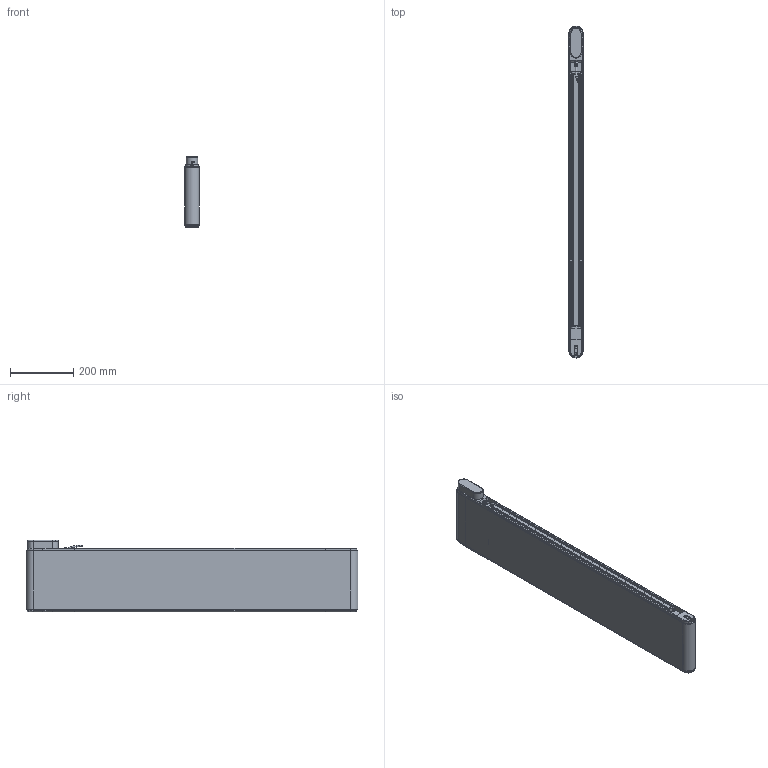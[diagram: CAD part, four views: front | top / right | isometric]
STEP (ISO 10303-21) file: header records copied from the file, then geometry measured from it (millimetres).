
FILE_DESCRIPTION(/* description */ (''),/* implementation_level */ '2;1');
FILE_NAME(/* name */ 'G:\DATEN\CAD\Förderband\Marketing\3D-Modelle (Standard)\FR-40-200-Q\FR-40-200-Q-1000-K.stp',/* time_stamp */ '2019-05-09T09:51:47+02:00',/* author */ ('melanie.ochs'),/* organization */ (''),/* preprocessor_version */ 'ST-DEVELOPER v17',/* originating_system */ 'Autodesk Inventor 2019',/* authorisation */ '');
FILE_SCHEMA (('CONFIG_CONTROL_DESIGN'));
Length unit declared in the file: centimetre
Products named in the file (1): FR-40-200-Q-1000-K
Bounding box: 46.6 x 1046.6 x 224.5 mm (x, y, z)
Volume: 3287150 mm3; surface area: 1865481.2 mm2
Topology: 34 solids, 35 shells, 904 faces, 2465 edges, 1681 vertices
Faces by surface type: plane 447, cylinder 288, cone 75, bspline 61, torus 33
Full cylindrical faces by diameter (mm): 1 x6, 3 x1, 4 x12, 4.3 x4, 4.65 x1, 4.917 x3, 5 x11, 5.5 x8, 6 x2, 6.5 x1, 6.773 x1, 6.917 x2, 8 x7, 8.3 x8, 8.5 x8, 8.773 x1, 10 x2, 11 x1, 12 x5, 25 x2, 28 x4, 28.01 x2, 30 x1, 40.917 x1, 42 x1, 44 x3
Entity records: 30633 total; most frequent: CARTESIAN_POINT 6598, ORIENTED_EDGE 4878, DIRECTION 4748, EDGE_CURVE 2439, AXIS2_PLACEMENT_3D 1738, VERTEX_POINT 1680, LINE 1272, VECTOR 1272
